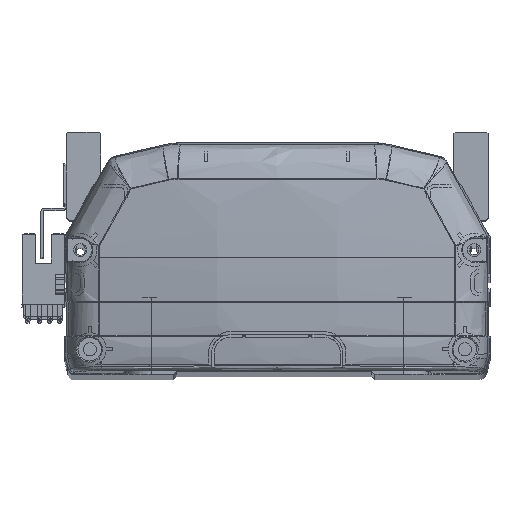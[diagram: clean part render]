
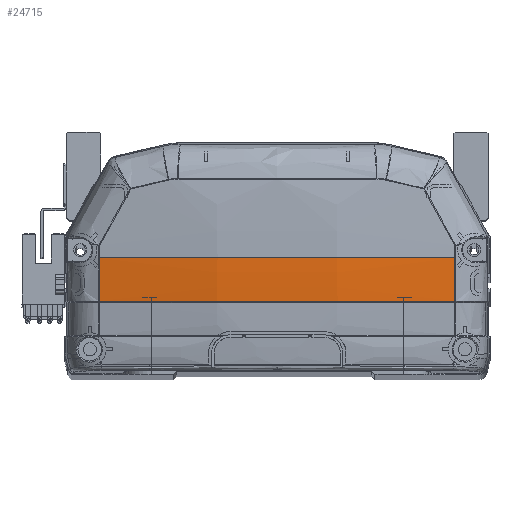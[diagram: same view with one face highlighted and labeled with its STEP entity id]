
A CAD part, top view. The second image highlights one B-rep face of the part: STEP entity #24715.
In plain terms, the highlighted free-form (B-spline) face has degree [3, 3] with [4, 4] control points.
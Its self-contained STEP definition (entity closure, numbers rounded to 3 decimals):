
#39 = CARTESIAN_POINT ( 'NONE',  ( 56.647, 35.969, -5.158 ) ) ;
#1190 = EDGE_CURVE ( 'NONE', #28923, #19600, #21380, .T. ) ;
#2301 = CARTESIAN_POINT ( 'NONE',  ( 11.954, 22.225, -9.367 ) ) ;
#2624 = CARTESIAN_POINT ( 'NONE',  ( -19.28, 22.225, -9.565 ) ) ;
#3531 = VERTEX_POINT ( 'NONE', #41156 ) ;
#5053 = EDGE_CURVE ( 'NONE', #19600, #7695, #17255, .T. ) ;
#5088 = CARTESIAN_POINT ( 'NONE',  ( -56.661, 22.225, -4.818 ) ) ;
#5956 = CARTESIAN_POINT ( 'NONE',  ( -19.295, 31.274, -11.535 ) ) ;
#6277 = CARTESIAN_POINT ( 'NONE',  ( -56.661, 22.225, -4.818 ) ) ;
#6367 = ORIENTED_EDGE ( 'NONE', *, *, #23679, .F. ) ;
#6597 =( BOUNDED_SURFACE ( )  B_SPLINE_SURFACE ( 3, 3, ( 
 ( #34500, #16459, #41749, #31140 ),
 ( #20857, #12960, #13110, #46215 ),
 ( #24500, #13266, #5956, #38264 ),
 ( #31292, #38420, #27826, #46049 ) ),
 .UNSPECIFIED., .F., .F., .F. ) 
 B_SPLINE_SURFACE_WITH_KNOTS ( ( 4, 4 ),
 ( 4, 4 ),
 ( 0., 1. ),
 ( 0., 1. ),
 .UNSPECIFIED. ) 
 GEOMETRIC_REPRESENTATION_ITEM ( )  RATIONAL_B_SPLINE_SURFACE ( (
 ( 1., 1., 1., 1.),
 ( 0.99, 0.99, 0.99, 0.99),
 ( 0.99, 0.99, 0.99, 0.99),
 ( 1., 1., 1., 1.) ) ) 
 REPRESENTATION_ITEM ( '' )  SURFACE ( )  );
#7695 = VERTEX_POINT ( 'NONE', #11152 ) ;
#8850 = DIRECTION ( 'NONE',  ( 0., 0., -1. ) ) ;
#9476 = CARTESIAN_POINT ( 'NONE',  ( 23.877, 22.225, -8.763 ) ) ;
#11152 = CARTESIAN_POINT ( 'NONE',  ( -56.647, 36., -5.158 ) ) ;
#11528 = DIRECTION ( 'NONE',  ( 0., 0., -1. ) ) ;
#11791 = FACE_OUTER_BOUND ( 'NONE', #41347, .T. ) ;
#12960 = CARTESIAN_POINT ( 'NONE',  ( 19.295, 26.549, -11.419 ) ) ;
#13110 = CARTESIAN_POINT ( 'NONE',  ( 19.295, 31.274, -11.535 ) ) ;
#13266 = CARTESIAN_POINT ( 'NONE',  ( -19.295, 26.549, -11.419 ) ) ;
#13695 = VERTEX_POINT ( 'NONE', #20882 ) ;
#16038 = CARTESIAN_POINT ( 'NONE',  ( -56.647, 31.405, -5.158 ) ) ;
#16459 = CARTESIAN_POINT ( 'NONE',  ( 57.335, 26.762, -4.928 ) ) ;
#16777 = CARTESIAN_POINT ( 'NONE',  ( 2.357, 22.225, -9.562 ) ) ;
#16861 = CARTESIAN_POINT ( 'NONE',  ( 56.661, 22.225, -4.818 ) ) ;
#17088 = CARTESIAN_POINT ( 'NONE',  ( 56.661, 22.225, -4.818 ) ) ;
#17255 = CIRCLE ( 'NONE', #43961, 340.733 ) ;
#19473 = DIRECTION ( 'NONE',  ( -1., 0., 0. ) ) ;
#19600 = VERTEX_POINT ( 'NONE', #40618 ) ;
#20714 = CARTESIAN_POINT ( 'NONE',  ( 47.432, 22.225, -6.377 ) ) ;
#20857 = CARTESIAN_POINT ( 'NONE',  ( 19.295, 21.828, -11.186 ) ) ;
#20882 = CARTESIAN_POINT ( 'NONE',  ( 56.661, 22.225, -4.818 ) ) ;
#21380 = CIRCLE ( 'NONE', #38109, 6395.966 ) ;
#22101 = B_SPLINE_CURVE_WITH_KNOTS ( 'NONE', 3,
 ( #37709, #16038, #44994, #5088 ),
 .UNSPECIFIED., .F., .F.,
 ( 4, 4 ),
 ( 0., 1. ),
 .UNSPECIFIED. ) ;
#23679 = EDGE_CURVE ( 'NONE', #13695, #28923, #40377, .T. ) ;
#23917 = EDGE_CURVE ( 'NONE', #7695, #3531, #22101, .T. ) ;
#24125 = CARTESIAN_POINT ( 'NONE',  ( 56.647, 31.387, -5.158 ) ) ;
#24500 = CARTESIAN_POINT ( 'NONE',  ( -19.295, 21.828, -11.186 ) ) ;
#24715 = ADVANCED_FACE ( 'NONE', ( #11791 ), #6597, .T. ) ;
#24816 = ORIENTED_EDGE ( 'NONE', *, *, #23917, .F. ) ;
#26756 = CARTESIAN_POINT ( 'NONE',  ( 6452.613, 35.969, -5.158 ) ) ;
#27826 = CARTESIAN_POINT ( 'NONE',  ( -57.335, 31.38, -5.042 ) ) ;
#28923 = VERTEX_POINT ( 'NONE', #39 ) ;
#29557 = DIRECTION ( 'NONE',  ( 0., 1., 0. ) ) ;
#31140 = CARTESIAN_POINT ( 'NONE',  ( 57.335, 36., -5.042 ) ) ;
#31292 = CARTESIAN_POINT ( 'NONE',  ( -57.335, 22.148, -4.7 ) ) ;
#31912 = ORIENTED_EDGE ( 'NONE', *, *, #33403, .T. ) ;
#32667 = ORIENTED_EDGE ( 'NONE', *, *, #1190, .F. ) ;
#32799 = ORIENTED_EDGE ( 'NONE', *, *, #5053, .F. ) ;
#32881 = CARTESIAN_POINT ( 'NONE',  ( 0., 36., 330.833 ) ) ;
#33403 = EDGE_CURVE ( 'NONE', #13695, #3531, #35354, .T. ) ;
#34500 = CARTESIAN_POINT ( 'NONE',  ( 57.335, 22.148, -4.7 ) ) ;
#34801 = CARTESIAN_POINT ( 'NONE',  ( 1.152, 22.225, -9.568 ) ) ;
#35035 = CARTESIAN_POINT ( 'NONE',  ( 56.647, 35.969, -5.158 ) ) ;
#35354 = B_SPLINE_CURVE_WITH_KNOTS ( 'NONE', 3,
 ( #17088, #20714, #42371, #9476, #38734, #2301, #42211, #46226, #16777, #34801, #2624, #42059, #6277 ),
 .UNSPECIFIED., .F., .F.,
 ( 4, 2, 2, 1, 2, 2, 4 ),
 ( 0., 0.25, 0.375, 0.438, 0.469, 0.5, 1. ),
 .UNSPECIFIED. ) ;
#37709 = CARTESIAN_POINT ( 'NONE',  ( -56.647, 36., -5.158 ) ) ;
#38109 = AXIS2_PLACEMENT_3D ( 'NONE', #26756, #8850, #19473 ) ;
#38264 = CARTESIAN_POINT ( 'NONE',  ( -19.295, 36., -11.535 ) ) ;
#38420 = CARTESIAN_POINT ( 'NONE',  ( -57.335, 26.762, -4.928 ) ) ;
#38734 = CARTESIAN_POINT ( 'NONE',  ( 19.121, 22.225, -9.064 ) ) ;
#40377 = B_SPLINE_CURVE_WITH_KNOTS ( 'NONE', 3,
 ( #16861, #45828, #24125, #35035 ),
 .UNSPECIFIED., .F., .F.,
 ( 4, 4 ),
 ( 0., 1. ),
 .UNSPECIFIED. ) ;
#40618 = CARTESIAN_POINT ( 'NONE',  ( 56.647, 36., -5.158 ) ) ;
#41156 = CARTESIAN_POINT ( 'NONE',  ( -56.661, 22.225, -4.818 ) ) ;
#41347 = EDGE_LOOP ( 'NONE', ( #32799, #32667, #6367, #31912, #24816 ) ) ;
#41749 = CARTESIAN_POINT ( 'NONE',  ( 57.335, 31.38, -5.042 ) ) ;
#42059 = CARTESIAN_POINT ( 'NONE',  ( -38.235, 22.225, -7.93 ) ) ;
#42211 = CARTESIAN_POINT ( 'NONE',  ( 8.363, 22.225, -9.48 ) ) ;
#42371 = CARTESIAN_POINT ( 'NONE',  ( 38.071, 22.225, -7.566 ) ) ;
#43961 = AXIS2_PLACEMENT_3D ( 'NONE', #32881, #29557, #11528 ) ;
#44994 = CARTESIAN_POINT ( 'NONE',  ( -56.652, 26.814, -5.045 ) ) ;
#45828 = CARTESIAN_POINT ( 'NONE',  ( 56.652, 26.806, -5.044 ) ) ;
#46049 = CARTESIAN_POINT ( 'NONE',  ( -57.335, 36., -5.042 ) ) ;
#46215 = CARTESIAN_POINT ( 'NONE',  ( 19.295, 36., -11.535 ) ) ;
#46226 = CARTESIAN_POINT ( 'NONE',  ( 4.761, 22.225, -9.537 ) ) ;
